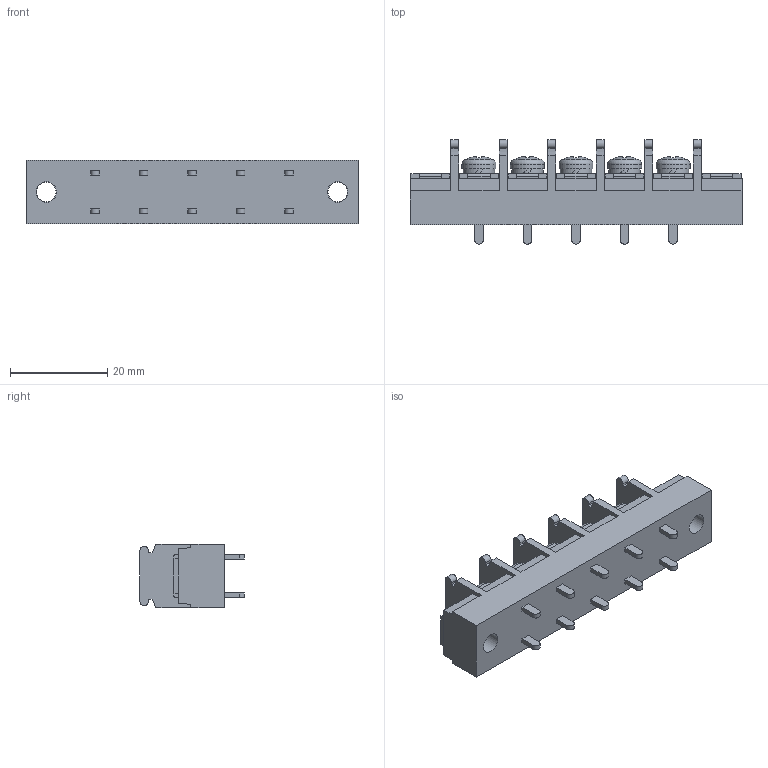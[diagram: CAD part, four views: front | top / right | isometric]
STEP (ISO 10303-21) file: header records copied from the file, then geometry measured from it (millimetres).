
FILE_DESCRIPTION(/* description */ ('Alibre Inc.'),/* implementation_level */ '2;1');
FILE_NAME(/* name */ 'export0',/* time_stamp */ '2015-10-17T19:03:26+09:00',/* author */ (''),/* organization */ (''),/* preprocessor_version */ 'ST-DEVELOPER v14',/* originating_system */ 'Alibre',/* authorisation */ '');
FILE_SCHEMA (('CONFIG_CONTROL_DESIGN'));
Length unit declared in the file: centimetre
Products named in the file (1): ID_1
Bounding box: 68.4 x 21.5 x 13 mm (x, y, z)
Volume: 9888.3 mm3; surface area: 5950.5 mm2
Topology: 1 solids, 17 shells, 780 faces, 2093 edges, 1391 vertices
Faces by surface type: plane 586, bspline 104, cylinder 55, cone 20, torus 10, sphere 5
Full cylindrical faces by diameter (mm): 4 x7, 4.2 x2, 6.5 x5, 7 x5
Entity records: 23538 total; most frequent: CARTESIAN_POINT 5288, ORIENTED_EDGE 4104, DIRECTION 2812, EDGE_CURVE 2052, VECTOR 1554, LINE 1554, VERTEX_POINT 1374, AXIS2_PLACEMENT_3D 912
